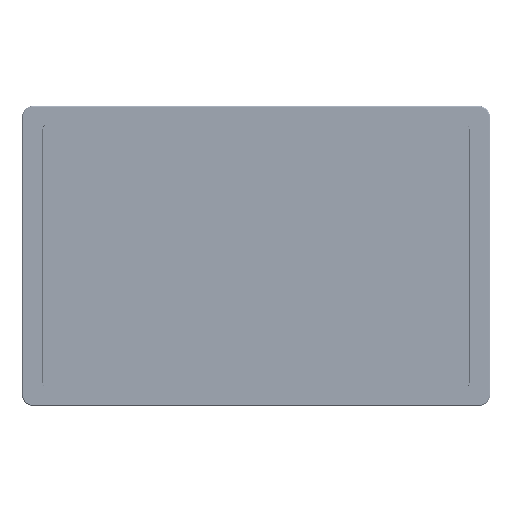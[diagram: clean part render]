
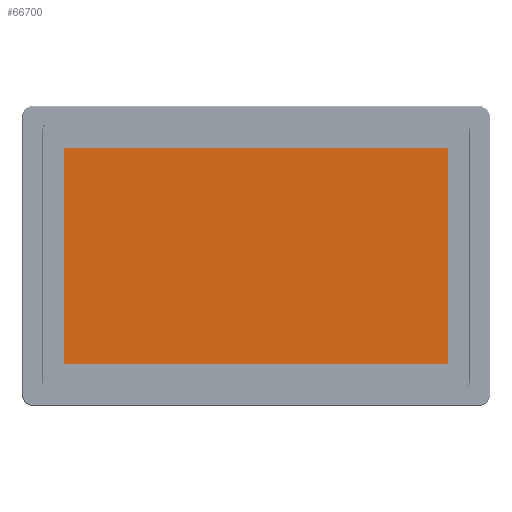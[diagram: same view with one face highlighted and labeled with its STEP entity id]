
A CAD part, top view. The second image highlights one B-rep face of the part: STEP entity #66700.
In plain terms, the highlighted planar face has unit normal (0, 0, 1).
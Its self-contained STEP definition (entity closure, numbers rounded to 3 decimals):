
#4736=LINE('',#646565,#9452);
#4740=LINE('',#646574,#9456);
#4743=LINE('',#646580,#9459);
#4746=LINE('',#646586,#9462);
#9452=VECTOR('',#297681,1.);
#9456=VECTOR('',#297687,1.);
#9459=VECTOR('',#297692,1.);
#9462=VECTOR('',#297697,1.);
#66700=ADVANCED_FACE('',(#87437),#73032,.T.);
#73032=PLANE('',#261913);
#87437=FACE_OUTER_BOUND('',#103356,.T.);
#103356=EDGE_LOOP('',(#178225,#178226,#178227,#178228));
#178225=ORIENTED_EDGE('',*,*,#242613,.T.);
#178226=ORIENTED_EDGE('',*,*,#242623,.T.);
#178227=ORIENTED_EDGE('',*,*,#242620,.T.);
#178228=ORIENTED_EDGE('',*,*,#242617,.T.);
#204572=VERTEX_POINT('',#646566);
#204573=VERTEX_POINT('',#646567);
#204576=VERTEX_POINT('',#646575);
#204578=VERTEX_POINT('',#646581);
#242613=EDGE_CURVE('',#204572,#204573,#4736,.T.);
#242617=EDGE_CURVE('',#204576,#204572,#4740,.T.);
#242620=EDGE_CURVE('',#204578,#204576,#4743,.T.);
#242623=EDGE_CURVE('',#204573,#204578,#4746,.T.);
#261913=AXIS2_PLACEMENT_3D('',#646590,#297703,#297704);
#297681=DIRECTION('',(0.,-1.,0.));
#297687=DIRECTION('',(-1.,0.,0.));
#297692=DIRECTION('',(0.,1.,0.));
#297697=DIRECTION('',(1.,0.,0.));
#297703=DIRECTION('',(0.,0.,1.));
#297704=DIRECTION('',(1.,0.,0.));
#646565=CARTESIAN_POINT('',(-110.,84.377,13.25));
#646566=CARTESIAN_POINT('',(-110.,84.377,13.25));
#646567=CARTESIAN_POINT('',(-110.,-108.823,13.25));
#646574=CARTESIAN_POINT('',(-110.,84.377,13.25));
#646575=CARTESIAN_POINT('',(234.,84.377,13.25));
#646580=CARTESIAN_POINT('',(234.,84.377,13.25));
#646581=CARTESIAN_POINT('',(234.,-108.823,13.25));
#646586=CARTESIAN_POINT('',(-110.,-108.823,13.25));
#646590=CARTESIAN_POINT('',(62.,-12.223,13.25));
